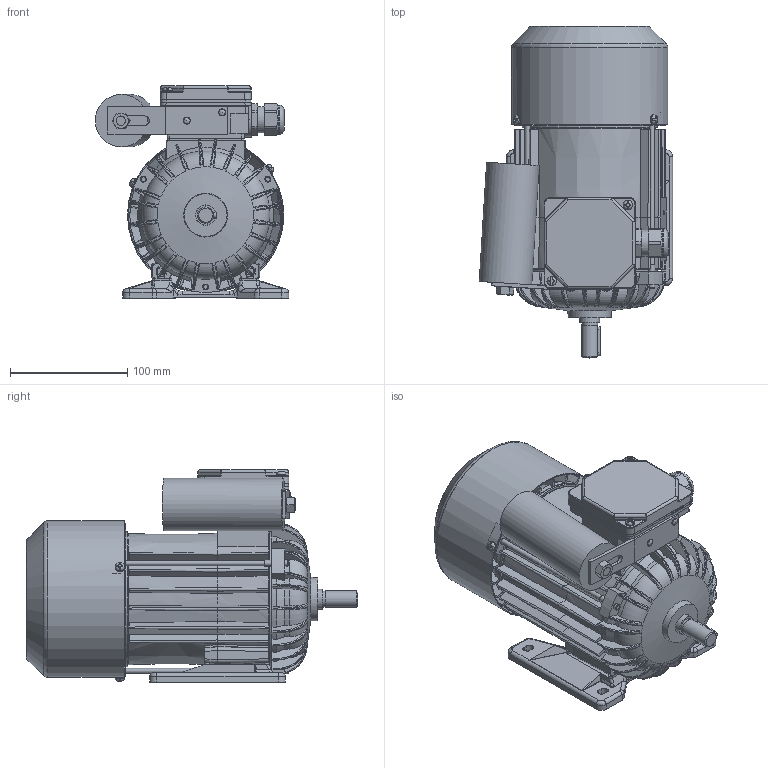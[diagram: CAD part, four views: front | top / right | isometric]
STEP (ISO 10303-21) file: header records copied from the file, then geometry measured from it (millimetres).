
FILE_DESCRIPTION(/* description */ ('Unknown'),/* implementation_level */ '2;1');
FILE_NAME(/* name */ '3SSIE71-4B',/* time_stamp */ '2024-06-18T12:18:39+02:00',/* author */ ('Unknown'),/* organization */ ('Unknown'),/* preprocessor_version */ 'ST-DEVELOPER v16.7',/* originating_system */ 'Solid Edge',/* authorisation */ 'Unknown');
FILE_SCHEMA (('AUTOMOTIVE_DESIGN {1 0 10303 214 3 1 1}'));
Length unit declared in the file: millimetre
Products named in the file (1): Czêœæ20
Bounding box: 165.27 x 283.48 x 181.5 mm (x, y, z)
Volume: 896318.5 mm3; surface area: 461526.1 mm2
Topology: 2 solids, 2 shells, 3184 faces, 8606 edges, 5400 vertices
Faces by surface type: plane 1194, cylinder 811, bspline 646, torus 284, cone 215, sphere 34
Full cylindrical faces by diameter (mm): 2 x2, 2.4 x2, 3 x1, 3.7 x4, 3.8 x4, 4 x4, 4.3 x2, 4.4 x3, 4.5 x2, 4.8 x2, 5 x8, 5.1 x3, 5.5 x3, 5.8 x4, 6 x2, 6.5 x1, 7 x1, 8 x7, 13.599 x1, 13.999 x1, 15.898 x1, 16.098 x1, 16.498 x1, 16.998 x2, 17.4 x2, 21.998 x2, 22.3 x1, 22.498 x1, 22.648 x1, 22.998 x1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
Entity records: 134967 total; most frequent: CARTESIAN_POINT 39392, ORIENTED_EDGE 16398, DIRECTION 13743, EDGE_CURVE 8199, AXIS2_PLACEMENT_3D 5275, VERTEX_POINT 5263, EDGE_LOOP 3618, FACE_BOUND 3618
